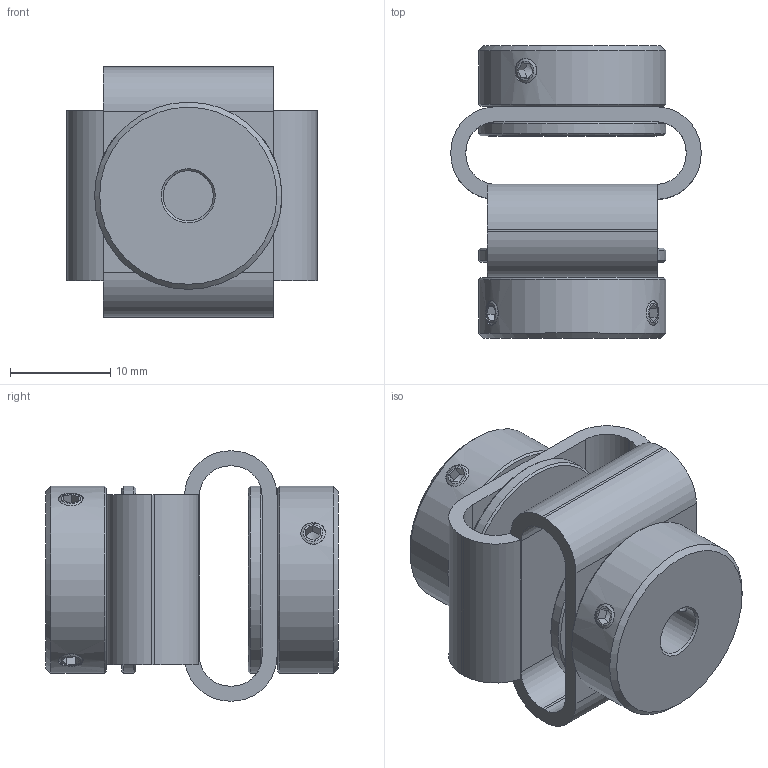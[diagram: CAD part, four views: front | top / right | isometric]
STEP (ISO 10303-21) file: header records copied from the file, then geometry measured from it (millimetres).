
FILE_DESCRIPTION(/* description */ (''),/* implementation_level */ '2;1');
FILE_NAME(/* name */ 'Z:\ABP-Antriebstechnik\Entwicklung-3D\Paguflex\DKPS 2928 05 06.stp',/* time_stamp */ '2017-06-30T08:19:09+02:00',/* author */ ('werner.boesinger'),/* organization */ (''),/* preprocessor_version */ 'ST-DEVELOPER v16.1',/* originating_system */ 'Autodesk Inventor 2016',/* authorisation */ '');
FILE_SCHEMA (('AUTOMOTIVE_DESIGN { 1 0 10303 214 3 1 1 }'));
Length unit declared in the file: millimetre
Products named in the file (1): DKPS 2928 05 06
Bounding box: 25 x 29.2 x 25 mm (x, y, z)
Volume: 5964.4 mm3; surface area: 5422.1 mm2
Topology: 1 solids, 3 shells, 154 faces, 366 edges, 226 vertices
Faces by surface type: plane 90, cylinder 36, cone 28
Full cylindrical faces by diameter (mm): 2.459 x8, 5 x1, 6 x1, 12.5 x2, 14 x4, 18.7 x4
Entity records: 4367 total; most frequent: CARTESIAN_POINT 961, DIRECTION 694, ORIENTED_EDGE 572, EDGE_CURVE 286, AXIS2_PLACEMENT_3D 273, EDGE_LOOP 220, VERTEX_POINT 192, STYLED_ITEM 155
